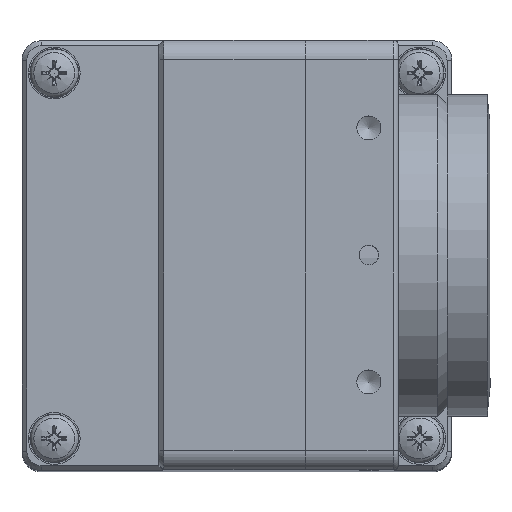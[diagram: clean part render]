
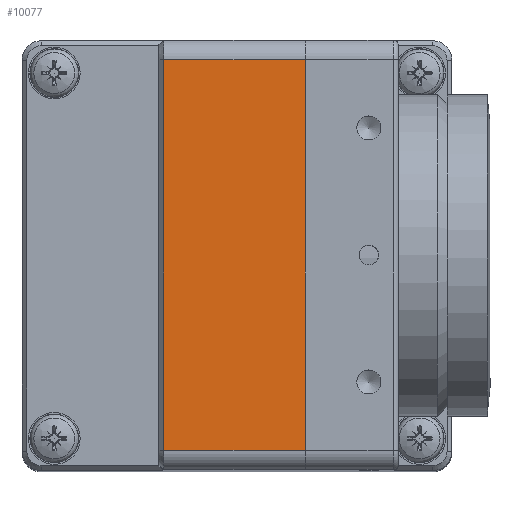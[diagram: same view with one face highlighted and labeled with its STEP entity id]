
A CAD part, top view. The second image highlights one B-rep face of the part: STEP entity #10077.
In plain terms, the highlighted planar face has unit normal (0, 0, 1) as drawn and (0, -1, 0) by its records, which use the part's own axes.
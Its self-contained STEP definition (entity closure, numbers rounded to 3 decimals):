
#8152=CARTESIAN_POINT('',(-20.,-29.5,-14.));
#8153=VERTEX_POINT('',#8152);
#8216=CARTESIAN_POINT('',(20.,-29.5,-14.));
#8217=VERTEX_POINT('',#8216);
#8224=CARTESIAN_POINT('',(20.,-29.5,-14.));
#8225=DIRECTION('',(-1.0,0.0,0.0));
#8226=VECTOR('',#8225,40.);
#8227=LINE('',#8224,#8226);
#8228=EDGE_CURVE('',#8217,#8153,#8227,.T.);
#10036=CARTESIAN_POINT('',(20.,-29.5,0.5));
#10037=VERTEX_POINT('',#10036);
#10045=CARTESIAN_POINT('',(20.,-29.5,0.5));
#10046=DIRECTION('',(0.0,0.0,-1.0));
#10047=VECTOR('',#10046,14.5);
#10048=LINE('',#10045,#10047);
#10049=EDGE_CURVE('',#10037,#8217,#10048,.T.);
#10054=CARTESIAN_POINT('',(22.,-29.5,-14.5));
#10055=DIRECTION('',(0.0,-1.0,0.0));
#10056=DIRECTION('',(0.0,0.0,-1.0));
#10057=AXIS2_PLACEMENT_3D('',#10054,#10055,#10056);
#10058=PLANE('',#10057);
#10059=ORIENTED_EDGE('',*,*,#8228,.F.);
#10060=ORIENTED_EDGE('',*,*,#10049,.F.);
#10061=CARTESIAN_POINT('',(-20.,-29.5,0.5));
#10062=VERTEX_POINT('',#10061);
#10063=CARTESIAN_POINT('',(20.,-29.5,0.5));
#10064=DIRECTION('',(-1.0,0.0,0.0));
#10065=VECTOR('',#10064,40.);
#10066=LINE('',#10063,#10065);
#10067=EDGE_CURVE('',#10037,#10062,#10066,.T.);
#10068=ORIENTED_EDGE('',*,*,#10067,.T.);
#10069=CARTESIAN_POINT('',(-20.,-29.5,-14.));
#10070=DIRECTION('',(0.0,0.0,1.0));
#10071=VECTOR('',#10070,14.5);
#10072=LINE('',#10069,#10071);
#10073=EDGE_CURVE('',#8153,#10062,#10072,.T.);
#10074=ORIENTED_EDGE('',*,*,#10073,.F.);
#10075=EDGE_LOOP('',(#10059,#10060,#10068,#10074));
#10076=FACE_OUTER_BOUND('',#10075,.T.);
#10077=ADVANCED_FACE('',(#10076),#10058,.T.);
